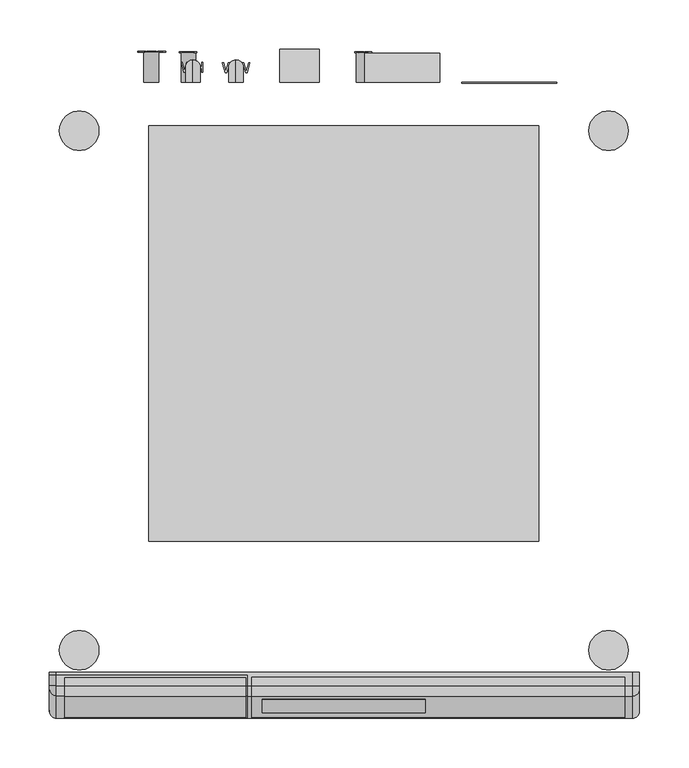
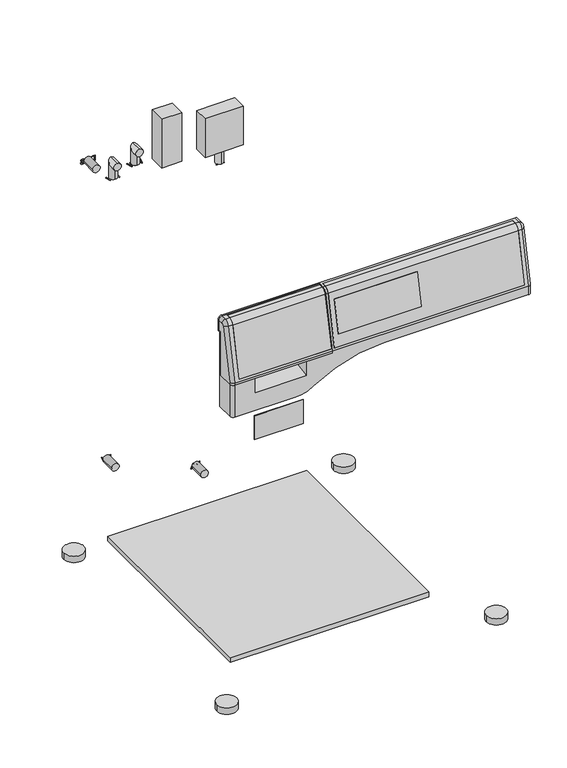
"""IFC4 building model written with IfcOpenShell, lengths in millimetres: proxy geometry, 11137260_RU_PWM507DV_SST : 51507451_RU_11137260_PWM507DV_SST."""

from ifc_helpers import new_model, si_unit, point, frame, frame_2d, origin, origin_with_axes, place, context, project, spatial, polyline, circle_curve, ellipse_curve, trimmed, segment, composite_curve, outline, extrude, source, transform, mapped, element, save
from ifc_brep_helpers import plane_surface, cylinder_surface, revolved_surface, advanced_brep


def specialty_equipment_3f033d97(model_context):
    return source(origin(), model_context, "Body", "SolidModel", [
        advanced_brep(
        [(-297.5, -634.5, 819.0), (-297.5, -640.0, 819.0), (-297.5, -640.0, 727.0), (-297.5, -671.0, 727.0), (-297.5, -671.0, 730.2642704), (-297.5, -648.6353607, 835.4816256), (-297.5, -644.8274781, 838.6486082), (-297.5, -634.5, 838.9190427), (-97.5, -655.4823939, 836.9370075), (-97.5, -678.0, 731.0), (-97.5, -678.0, 727.0), (-97.5, -640.0, 727.0), (-97.5, -640.0, 819.0), (-97.5, -634.5, 819.0), (-97.5, -634.5, 845.9214422), (-97.5, -645.0107168, 845.6462094), (-98.5, -655.4823939, 836.9370075), (-98.5, -677.1497738, 735.0), (-282.5, -677.1497738, 735.0), (-282.5, -655.4823939, 836.9370075), (-290.5, -655.4823939, 836.9370075), (-290.5, -678.0, 731.0), (-290.5, -678.0, 727.0), (-290.5, -634.5, 845.9214422), (-290.5, -645.0107168, 845.6462094), (-282.5, -645.0107168, 845.6462094), (-282.5, -636.5, 845.8690704), (-98.5, -636.5, 845.8690704), (-98.5, -645.0107168, 845.6462094), (-98.5, -654.5042463, 836.7290958), (-98.5, -676.1274332, 735.0), (-98.5, -636.5, 844.8687276), (-98.5, -644.9845398, 844.6465521), (-282.5, -654.5042463, 836.7290958), (-282.5, -644.9845398, 844.6465521), (-282.5, -636.5, 844.8687276), (-282.5, -676.1274332, 735.0)],
        [
            (0, 1),
            (1, 2),
            (2, 3),
            (3, 4),
            (4, 5),
            (5, 6, circle_curve(frame((-297.5, -644.7227703, 834.6499789), z_axis=(-1.0, 0.0, 0.0), x_axis=(0.0, -0.978147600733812, 0.20791169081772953)), 4.0)),
            (6, 7),
            (7, 0),
            (8, 9),
            (9, 10),
            (10, 11),
            (11, 12),
            (12, 13),
            (13, 14),
            (14, 15),
            (15, 8, circle_curve(frame((-97.5, -644.7227703, 834.6499789), z_axis=(1.0, 0.0, 0.0), x_axis=(0.0, 1.0, 0.0)), 11.0)),
            (8, 16),
            (16, 17),
            (17, 18),
            (18, 19),
            (19, 20),
            (20, 21),
            (21, 9),
            (21, 22),
            (22, 10),
            (22, 3, circle_curve(frame((-290.5, -671.0, 727.0), z_axis=(0.0, 0.0, -1.0), x_axis=(0.0, 1.0, 0.0)), 7.0)),
            (2, 11),
            (1, 12),
            (0, 13),
            (7, 23, ellipse_curve(frame((-290.5, -634.5, 838.9190427), z_axis=(0.0, 1.0, 0.0), x_axis=(0.0, 0.0, 1.0)), 7.0023995, 7.0)),
            (23, 14),
            (23, 24),
            (24, 25),
            (25, 26),
            (26, 27),
            (27, 28),
            (28, 15),
            (28, 16, circle_curve(frame((-98.5, -644.7227703, 834.6499789), z_axis=(1.0, 0.0, 0.0), x_axis=(0.0, 1.0, 0.0)), 11.0)),
            (19, 25, circle_curve(frame((-282.5, -644.7227703, 834.6499789), z_axis=(-1.0, 0.0, 0.0), x_axis=(0.0, 1.0, 0.0)), 11.0)),
            (24, 20, circle_curve(frame((-290.5, -644.7227703, 834.6499789), z_axis=(1.0, 0.0, 0.0), x_axis=(0.0, 1.0, 0.0)), 11.0)),
            (29, 30),
            (30, 17),
            (27, 31),
            (31, 32),
            (32, 29, circle_curve(frame((-98.5, -644.7227703, 834.6499789), z_axis=(1.0, 0.0, 0.0), x_axis=(0.0, 1.0, 0.0)), 10.0)),
            (33, 34, circle_curve(frame((-282.5, -644.7227703, 834.6499789), z_axis=(-1.0, 0.0, 0.0), x_axis=(0.0, 1.0, 0.0)), 10.0)),
            (34, 35),
            (35, 26),
            (18, 36),
            (36, 33),
            (29, 33),
            (36, 30),
            (32, 34),
            (31, 35),
            (21, 4, ellipse_curve(frame((-290.5, -671.0, 730.2642704), z_axis=(0.0, -0.10452846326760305, -0.9945218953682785), x_axis=(0.0, -0.9945218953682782, 0.1045284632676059)), 7.038558, 7.0)),
            (20, 5, circle_curve(frame((-290.5, -648.6353607, 835.4816256), z_axis=(0.0, -0.2079116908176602, -0.9781476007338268), x_axis=(0.0, 0.9781476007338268, -0.2079116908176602)), 7.0)),
            (24, 6, circle_curve(frame((-290.5, -644.8274781, 838.6486082), z_axis=(0.0, -0.9996573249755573, -0.026176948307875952), x_axis=(0.0, 0.026176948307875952, -0.9996573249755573)), 7.0)),
        ],
        [
            plane_surface(frame((-297.5, -655.4823939, 836.9370075), z_axis=(-1.0, 0.0, 0.0), x_axis=(0.0, 0.20791169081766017, 0.9781476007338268))),
            plane_surface(frame((-97.5, -655.4823939, 836.9370075), z_axis=(1.0, 0.0, 0.0), x_axis=(0.0, -0.20791169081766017, -0.9781476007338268))),
            plane_surface(frame((-97.5, -655.4823939, 836.9370075), z_axis=(0.0, -0.9781476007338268, 0.20791169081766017), x_axis=(-1.0, 0.0, 0.0))),
            plane_surface(frame((-97.5, -678.0, 731.0), z_axis=(0.0, -1.0, 0.0), x_axis=(-1.0, 0.0, 0.0))),
            plane_surface(frame((-97.5, -678.0, 727.0), z_axis=(0.0, 0.0, -1.0), x_axis=(-1.0, 0.0, 0.0))),
            plane_surface(frame((-97.5, -640.0, 727.0), z_axis=(0.0, 1.0, 0.0), x_axis=(-1.0, 0.0, 0.0))),
            plane_surface(frame((-97.5, -640.0, 819.0), z_axis=(0.0, 0.0, -1.0), x_axis=(-1.0, 0.0, 0.0))),
            plane_surface(frame((-97.5, -634.5, 819.0), z_axis=(0.0, 1.0, 0.0), x_axis=(-1.0, 0.0, 0.0))),
            plane_surface(frame((-97.5, -634.5, 845.9214422), z_axis=(0.0, -0.02617694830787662, 0.9996573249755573), x_axis=(-1.0, 0.0, 0.0))),
            cylinder_surface(frame((-297.5, -644.7227703, 834.6499789), z_axis=(1.0, 0.0, 0.0), x_axis=(0.0, 1.0, 0.0)), 11.0),
            plane_surface(frame((-98.5, -634.7227703, 834.6499789), z_axis=(-1.0, 0.0, 0.0), x_axis=(0.0, 0.0, -1.0))),
            plane_surface(frame((-282.5, -634.7227703, 834.6499789), z_axis=(1.0, 0.0, 0.0), x_axis=(0.0, 0.0, 1.0))),
            plane_surface(frame((-98.5, -676.1274332, 735.0), z_axis=(0.0, -0.9781476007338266, 0.2079116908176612), x_axis=(-1.0, 0.0, 0.0))),
            cylinder_surface(frame((-282.5, -644.7227703, 834.6499789), z_axis=(-1.0, 0.0, 0.0), x_axis=(0.0, 1.0, 0.0)), 10.0),
            plane_surface(frame((-98.5, -644.9845398, 844.6465521), z_axis=(0.0, -0.026176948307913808, 0.9996573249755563), x_axis=(-1.0, 0.0, 0.0))),
            plane_surface(frame((-98.5, -636.5, 844.8687276), z_axis=(0.0, -1.0, 0.0), x_axis=(-1.0, 0.0, 0.0))),
            plane_surface(frame((-98.5, -677.1497738, 735.0), z_axis=(0.0, 0.0, 1.0), x_axis=(-1.0, 0.0, 0.0))),
            cylinder_surface(frame((-290.5, -671.0, 727.0), z_axis=(0.0, 0.0, 1.0), x_axis=(0.0, 1.0, 0.0)), 7.0),
            cylinder_surface(frame((-290.5, -671.1529668, 729.5446182), z_axis=(0.0, 0.2079116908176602, 0.9781476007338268), x_axis=(0.0, 0.9781476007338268, -0.2079116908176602)), 7.0),
            revolved_surface(trimmed(ellipse_curve(frame((-290.5, -648.6353607, 835.4816256), z_axis=(0.0, -0.20791169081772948, -0.978147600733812), x_axis=(0.0, 0.978147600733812, -0.20791169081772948)), 7.0, 7.0), [point((-290.5, -655.4823939, 836.9370075))], [point((-297.5, -648.6353607, 835.4816256))], True, "CARTESIAN"), (-297.5, -644.7227703, 834.6499789), (-1.0, 0.0, 0.0)),
            cylinder_surface(frame((-290.5, -644.8274781, 838.6486082), z_axis=(0.0, 0.9996573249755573, 0.026176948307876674), x_axis=(0.0, 0.026176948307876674, -0.9996573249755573)), 7.0),
        ],
        [
            (0, [[1, 2, 3, 4, 5, 6, 7, 8]]),
            (1, [[9, 10, 11, 12, 13, 14, 15, 16]]),
            (2, [[-9, 17, 18, 19, 20, 21, 22, 23]]),
            (3, [[-10, -23, 24, 25]]),
            (4, [[-11, -25, 26, -3, 27]]),
            (5, [[-2, 28, -12, -27]]),
            (6, [[-1, 29, -13, -28]]),
            (7, [[-14, -29, -8, 30, 31]]),
            (8, [[-15, -31, 32, 33, 34, 35, 36, 37]]),
            (9, [[-16, -37, 38, -17]]),
            (9, [[39, -33, 40, -21]]),
            (10, [[41, 42, -18, -38, -36, 43, 44, 45]]),
            (11, [[46, 47, 48, -34, -39, -20, 49, 50]]),
            (12, [[-41, 51, -50, 52]]),
            (13, [[-45, 53, -46, -51]]),
            (14, [[-44, 54, -47, -53]]),
            (15, [[-43, -35, -48, -54]]),
            (16, [[-42, -52, -49, -19]]),
            (17, [[55, -4, -26, -24]]),
            (18, [[-55, -22, 56, -5]]),
            (19, [[-56, -40, 57, -6]]),
            (20, [[-57, -32, -30, -7]]),
        ],
    ),
        extrude(outline(polyline([(-671.2386322, 758.0), (-672.2609728, 758.0), (-658.4447963, 823.0), (-657.4224557, 823.0), (-671.2386322, 758.0)])), frame((-82.5, 0.0, 0.0), z_axis=(1.0, 0.0, 0.0), x_axis=(0.0, 1.0, 0.0)), (0.0, 0.0, 1.0), 165.0),
        advanced_brep(
        [(284.0, -654.5042463, 836.7290958), (284.0, -644.9845398, 844.6465521), (284.0, -636.5, 844.8687276), (284.0, -636.5, 845.8690704), (284.0, -645.0107168, 845.6462094), (284.0, -655.4823939, 836.9370075), (284.0, -677.1497738, 735.0), (284.0, -676.1274332, 735.0), (-93.0, -654.5042463, 836.7290958), (-93.0, -676.1274332, 735.0), (-93.0, -677.1497738, 735.0), (-93.0, -655.4823939, 836.9370075), (-93.0, -645.0107168, 845.6462094), (-93.0, -636.5, 845.8690704), (-93.0, -636.5, 844.8687276), (-93.0, -644.9845398, 844.6465521), (82.5, -658.4447963, 823.0), (82.5, -672.2609728, 758.0), (-82.5, -672.2609728, 758.0), (-82.5, -658.4447963, 823.0), (82.5, -671.2386322, 758.0), (82.5, -657.4224557, 823.0), (-82.5, -657.4224557, 823.0), (-82.5, -671.2386322, 758.0)],
        [
            (0, 1, circle_curve(frame((284.0, -644.7227703, 834.6499789), z_axis=(-1.0, 0.0, 0.0), x_axis=(0.0, 1.0, 0.0)), 10.0)),
            (1, 2),
            (2, 3),
            (3, 4),
            (4, 5, circle_curve(frame((284.0, -644.7227703, 834.6499789), z_axis=(1.0, 0.0, 0.0), x_axis=(0.0, 1.0, 0.0)), 11.0)),
            (5, 6),
            (6, 7),
            (7, 0),
            (8, 9),
            (9, 10),
            (10, 11),
            (11, 12, circle_curve(frame((-93.0, -644.7227703, 834.6499789), z_axis=(-1.0, 0.0, 0.0), x_axis=(0.0, 1.0, 0.0)), 11.0)),
            (12, 13),
            (13, 14),
            (14, 15),
            (15, 8, circle_curve(frame((-93.0, -644.7227703, 834.6499789), z_axis=(1.0, 0.0, 0.0), x_axis=(0.0, 1.0, 0.0)), 10.0)),
            (0, 8),
            (15, 1),
            (14, 2),
            (13, 3),
            (12, 4),
            (11, 5),
            (10, 6),
            (16, 17),
            (17, 18),
            (18, 19),
            (19, 16),
            (9, 7),
            (20, 21),
            (21, 22),
            (22, 23),
            (23, 20),
            (20, 17),
            (16, 21),
            (22, 19),
            (18, 23),
        ],
        [
            plane_surface(frame((284.0, -634.7227703, 834.6499789), z_axis=(1.0, 0.0, 0.0), x_axis=(0.0, 0.0, -1.0))),
            plane_surface(frame((-93.0, -634.7227703, 834.6499789), z_axis=(-1.0, 0.0, 0.0), x_axis=(0.0, 0.0, 1.0))),
            revolved_surface(polyline([(-93.0, -634.7227703, 834.6499789), (284.0, -634.7227703, 834.6499789)]), (-93.0, -644.7227703, 834.6499789), (-1.0, 0.0, 0.0)),
            plane_surface(frame((284.0, -644.9845398, 844.6465521), z_axis=(0.0, 0.02617694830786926, -0.9996573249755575), x_axis=(-1.0, 0.0, 0.0))),
            plane_surface(frame((284.0, -636.5, 844.8687276), z_axis=(0.0, 1.0, 0.0), x_axis=(-1.0, 0.0, 0.0))),
            plane_surface(frame((284.0, -636.5, 845.8690704), z_axis=(0.0, -0.026176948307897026, 0.9996573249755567), x_axis=(-1.0, 0.0, 0.0))),
            cylinder_surface(frame((-93.0, -644.7227703, 834.6499789), z_axis=(1.0, 0.0, 0.0), x_axis=(0.0, 1.0, 0.0)), 11.0),
            plane_surface(frame((284.0, -655.4823939, 836.9370075), z_axis=(0.0, -0.9781476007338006, 0.20791169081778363), x_axis=(-1.0, 0.0, 0.0))),
            plane_surface(frame((284.0, -677.1497738, 735.0), z_axis=(0.0, 0.0, -1.0), x_axis=(-1.0, 0.0, 0.0))),
            plane_surface(frame((284.0, -676.1274332, 735.0), z_axis=(0.0, 0.9781476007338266, -0.2079116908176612), x_axis=(-1.0, 0.0, 0.0))),
            plane_surface(frame((82.5, -658.4447963, 823.0), z_axis=(-1.0, 0.0, 0.0), x_axis=(0.0, -1.0, 0.0))),
            plane_surface(frame((-82.5, -658.4447963, 823.0), z_axis=(1.0, 0.0, 0.0), x_axis=(0.0, 1.0, 0.0))),
            plane_surface(frame((82.5, -657.4224557, 823.0), z_axis=(0.0, 0.0, -1.0), x_axis=(-1.0, 0.0, 0.0))),
            plane_surface(frame((82.5, -672.2609728, 758.0), z_axis=(0.0, 0.0, 1.0), x_axis=(-1.0, 0.0, 0.0))),
        ],
        [
            (0, [[1, 2, 3, 4, 5, 6, 7, 8]]),
            (1, [[9, 10, 11, 12, 13, 14, 15, 16]]),
            (2, [[-1, 17, -16, 18]]),
            (3, [[-2, -18, -15, 19]]),
            (4, [[-3, -19, -14, 20]]),
            (5, [[-4, -20, -13, 21]]),
            (6, [[-5, -21, -12, 22]]),
            (7, [[-6, -22, -11, 23], [24, 25, 26, 27]]),
            (8, [[-7, -23, -10, 28]]),
            (9, [[-8, -28, -9, -17], [29, 30, 31, 32]]),
            (10, [[33, -24, 34, -29]]),
            (11, [[35, -26, 36, -31]]),
            (12, [[-34, -27, -35, -30]]),
            (13, [[-33, -32, -36, -25]]),
        ],
    ),
        advanced_brep(
        [(298.5, -637.0, 816.0), (298.5, -631.5, 816.0), (298.5, -631.5, 838.9976005), (298.5, -644.8274781, 838.6486082), (298.5, -648.6353607, 835.4816256), (298.5, -671.0, 730.2642704), (298.5, -671.0, 713.0), (298.5, -637.0, 713.0), (-297.5, -637.0, 816.0), (-297.5, -637.0, 660.0), (-297.5, -671.0, 660.0), (-297.5, -671.0, 727.0), (-297.5, -640.0, 727.0), (-297.5, -640.0, 819.0), (-297.5, -634.5, 819.0), (-297.5, -634.5, 838.9190427), (-297.5, -631.5, 838.9976005), (-297.5, -631.5, 816.0), (-290.5, -631.5, 846.0), (291.5, -631.5, 846.0), (284.0, -636.5, 845.8690704), (284.0, -645.0107168, 845.6462094), (291.5, -645.0107168, 845.6462094), (-290.5, -634.5, 845.9214422), (-97.5, -634.5, 845.9214422), (-97.5, -645.0107168, 845.6462094), (-93.0, -645.0107168, 845.6462094), (-93.0, -636.5, 845.8690704), (284.0, -655.4823939, 836.9370075), (291.5000072, -655.4823939, 836.9370075), (-93.0, -655.4823939, 836.9370075), (-97.5, -655.4823939, 836.9370075), (284.0, -677.1497738, 735.0), (-93.0, -677.1497738, 735.0), (-97.5, -678.0, 731.0), (291.5, -678.0, 731.0), (-97.5, -678.0, 727.0), (-148.5, -678.0, 727.0), (-148.5, -678.0, 697.0), (-251.5, -678.0, 697.0), (-251.5, -678.0, 727.0), (-290.5, -678.0, 727.0), (-290.5, -678.0, 660.0), (-170.6302935, -678.0, 660.0), (-135.780818, -678.0, 670.5165354), (5.0, -678.0, 713.0), (291.5, -678.0, 713.0), (-170.6302935, -637.0, 660.0), (5.0, -637.0, 713.0), (-135.780818, -637.0, 670.5165354), (284.0, -636.5, 844.8687276), (284.0, -644.9845398, 844.6465521), (284.0, -654.5042463, 836.7290958), (284.0, -676.1274332, 735.0), (-93.0, -676.1274332, 735.0), (-93.0, -654.5042463, 836.7290958), (-93.0, -644.9845398, 844.6465521), (-93.0, -636.5, 844.8687276), (-97.5, -634.5, 819.0), (-97.5, -640.0, 819.0), (-97.5, -640.0, 727.0), (-148.5, -640.0, 727.0), (-251.5, -640.0, 727.0), (-251.5, -640.0, 703.7004253), (-148.5, -640.0, 703.7004253)],
        [
            (0, 1),
            (1, 2),
            (2, 3),
            (3, 4, circle_curve(frame((298.5, -644.7227703, 834.6499789), z_axis=(1.0, 0.0, 0.0), x_axis=(0.0, -0.02617694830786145, 0.9996573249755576)), 4.0)),
            (4, 5),
            (5, 6),
            (6, 7),
            (7, 0),
            (8, 9),
            (9, 10),
            (10, 11),
            (11, 12),
            (12, 13),
            (13, 14),
            (14, 15),
            (15, 16),
            (16, 17),
            (17, 8),
            (0, 8),
            (17, 1),
            (16, 18, ellipse_curve(frame((-290.5, -631.5, 838.9976005), z_axis=(0.0, 1.0, 0.0), x_axis=(0.0, 0.0, 0.9999999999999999)), 7.0023995, 7.0)),
            (18, 19),
            (19, 2, ellipse_curve(frame((291.5, -631.5, 838.9976005), z_axis=(0.0, 1.0, 0.0), x_axis=(0.0, 0.0, -1.0)), 7.0023995, 7.0)),
            (20, 21),
            (21, 22),
            (22, 19),
            (18, 23),
            (23, 24),
            (24, 25),
            (25, 26),
            (26, 27),
            (27, 20),
            (21, 28, circle_curve(frame((284.0, -644.7227703, 834.6499789), z_axis=(1.0, 0.0, 0.0), x_axis=(0.0, 1.0, 0.0)), 11.0)),
            (28, 29),
            (29, 22, circle_curve(frame((291.5, -644.7227703, 834.6499789), z_axis=(-1.0, 0.0, 0.0), x_axis=(0.0, 1.0, 0.0)), 11.0)),
            (30, 26, circle_curve(frame((-93.0, -644.7227703, 834.6499789), z_axis=(-1.0, 0.0, 0.0), x_axis=(0.0, 1.0, 0.0)), 11.0)),
            (25, 31, circle_curve(frame((-97.5, -644.7227703, 834.6499789), z_axis=(1.0, 0.0, 0.0), x_axis=(0.0, 1.0, 0.0)), 11.0)),
            (31, 30),
            (28, 32),
            (32, 33),
            (33, 30),
            (31, 34),
            (34, 35),
            (35, 29),
            (34, 36),
            (36, 37),
            (37, 38),
            (38, 39),
            (39, 40),
            (40, 41),
            (41, 42),
            (42, 43),
            (43, 44, circle_curve(frame((-170.6302935, -678.0, 723.0), z_axis=(0.0, -1.0, 0.0), x_axis=(1.0, 0.0, 0.0)), 63.0)),
            (44, 45, circle_curve(frame((5.0, -678.0, 458.5), z_axis=(0.0, 1.0, 0.0), x_axis=(1.0, 0.0, 0.0)), 254.5)),
            (45, 46),
            (46, 35),
            (9, 47),
            (47, 43),
            (42, 10, circle_curve(frame((-290.5, -671.0, 660.0), z_axis=(0.0, 0.0, -1.0), x_axis=(0.0, 1.0, 0.0)), 7.0)),
            (7, 48),
            (48, 49, circle_curve(frame((5.0, -637.0, 458.5), z_axis=(0.0, -1.0, 0.0), x_axis=(1.0, 0.0, 0.0)), 254.5)),
            (49, 47, circle_curve(frame((-170.6302935, -637.0, 723.0), z_axis=(0.0, 1.0, 0.0), x_axis=(1.0, 0.0, 0.0)), 63.0)),
            (20, 50),
            (50, 51),
            (51, 52, circle_curve(frame((284.0, -644.7227703, 834.6499789), z_axis=(1.0, 0.0, 0.0), x_axis=(0.0, 1.0, 0.0)), 10.0)),
            (52, 53),
            (53, 32),
            (33, 54),
            (54, 55),
            (55, 56, circle_curve(frame((-93.0, -644.7227703, 834.6499789), z_axis=(-1.0, 0.0, 0.0), x_axis=(0.0, 1.0, 0.0)), 10.0)),
            (56, 57),
            (57, 27),
            (53, 54),
            (52, 55),
            (51, 56),
            (50, 57),
            (24, 58),
            (58, 59),
            (59, 60),
            (60, 36),
            (60, 61),
            (61, 37),
            (62, 12),
            (11, 41, circle_curve(frame((-290.5, -671.0, 727.0), z_axis=(0.0, 0.0, 1.0), x_axis=(0.0, 1.0, 0.0)), 7.0)),
            (40, 62),
            (59, 13),
            (62, 63),
            (63, 64),
            (64, 61),
            (58, 14),
            (23, 15, ellipse_curve(frame((-290.5, -634.5, 838.9190427), z_axis=(0.0, -1.0, 0.0), x_axis=(0.0, 0.0, 0.9999999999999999)), 7.0023995, 7.0)),
            (64, 38),
            (39, 63),
            (22, 3, circle_curve(frame((291.5, -644.8274781, 838.6486082), z_axis=(0.0, 0.9996573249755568, 0.02617694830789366), x_axis=(1.0, 0.0, 0.0)), 7.0)),
            (29, 4, circle_curve(frame((291.5, -648.6353607, 835.4816256), z_axis=(0.0, 0.20791169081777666, 0.9781476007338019), x_axis=(1.0, 0.0, 0.0)), 7.0)),
            (35, 5, ellipse_curve(frame((291.5, -671.0, 730.2642704), z_axis=(0.0, 0.10452846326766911, 0.9945218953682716), x_axis=(0.0, -0.9945218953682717, 0.10452846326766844)), 7.038558, 7.0)),
            (46, 6, circle_curve(frame((291.5, -671.0, 713.0), z_axis=(0.0, 0.0, 1.0), x_axis=(1.0, 0.0, 0.0)), 7.0)),
            (45, 48),
            (44, 49),
        ],
        [
            plane_surface(frame((298.5, -631.5, 816.0), z_axis=(1.0, 0.0, 0.0), x_axis=(0.0, 1.0, 0.0))),
            plane_surface(frame((-297.5, -631.5, 816.0), z_axis=(-1.0, 0.0, 0.0), x_axis=(0.0, -1.0, 0.0))),
            plane_surface(frame((298.5, -637.0, 816.0), z_axis=(0.0, 0.0, -1.0), x_axis=(-1.0, 0.0, 0.0))),
            plane_surface(frame((298.5, -631.5, 816.0), z_axis=(0.0, 1.0, 0.0), x_axis=(-1.0, 0.0, 0.0))),
            plane_surface(frame((298.5, -631.5, 846.0), z_axis=(0.0, -0.026176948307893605, 0.9996573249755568), x_axis=(-1.0, 0.0, 0.0))),
            cylinder_surface(frame((-297.5, -644.7227703, 834.6499789), z_axis=(1.0, 0.0, 0.0), x_axis=(0.0, 1.0, 0.0)), 11.0),
            plane_surface(frame((298.5, -655.4823939, 836.9370075), z_axis=(0.0, -0.9781476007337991, 0.20791169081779), x_axis=(-1.0, 0.0, 0.0))),
            plane_surface(frame((298.5, -678.0, 731.0), z_axis=(0.0, -1.0, 0.0), x_axis=(-1.0, 0.0, 0.0))),
            plane_surface(frame((298.5, -678.0, 660.0), z_axis=(0.0, 0.0, -1.0), x_axis=(-1.0, 0.0, 0.0))),
            plane_surface(frame((298.5, -637.0, 660.0), z_axis=(0.0, 1.0, 0.0), x_axis=(-1.0, 0.0, 0.0))),
            plane_surface(frame((284.0, -677.1497738, 735.0), z_axis=(-1.0, 0.0, 0.0), x_axis=(0.0, 1.0, 0.0))),
            plane_surface(frame((-93.0, -677.1497738, 735.0), z_axis=(1.0, 0.0, 0.0), x_axis=(0.0, -1.0, 0.0))),
            plane_surface(frame((284.0, -677.1497738, 735.0), z_axis=(0.0, 0.0, 1.0), x_axis=(-1.0, 0.0, 0.0))),
            plane_surface(frame((284.0, -676.1274332, 735.0), z_axis=(0.0, -0.9781476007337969, 0.20791169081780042), x_axis=(-1.0, 0.0, 0.0))),
            cylinder_surface(frame((-93.0, -644.7227703, 834.6499789), z_axis=(-1.0, 0.0, 0.0), x_axis=(0.0, 1.0, 0.0)), 10.0),
            plane_surface(frame((284.0, -644.9845398, 844.6465521), z_axis=(0.0, -0.026176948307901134, 0.9996573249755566), x_axis=(-1.0, 0.0, 0.0))),
            plane_surface(frame((284.0, -636.5, 844.8687276), z_axis=(0.0, -1.0, 0.0), x_axis=(-1.0, 0.0, 0.0))),
            plane_surface(frame((-97.5, -678.0, 727.0), z_axis=(-1.0, 0.0, 0.0), x_axis=(0.0, 1.0, 0.0))),
            plane_surface(frame((-97.5, -678.0, 727.0), z_axis=(0.0, 0.0, 1.0), x_axis=(-1.0, 0.0, 0.0))),
            plane_surface(frame((-97.5, -640.0, 727.0), z_axis=(0.0, -1.0, 0.0), x_axis=(-1.0, 0.0, 0.0))),
            plane_surface(frame((-97.5, -640.0, 819.0), z_axis=(0.0, 0.0, 1.0), x_axis=(-1.0, 0.0, 0.0))),
            plane_surface(frame((-97.5, -634.5, 819.0), z_axis=(0.0, -1.0, 0.0), x_axis=(-1.0, 0.0, 0.0))),
            plane_surface(frame((-148.5, -678.0, 697.0), z_axis=(-1.0000000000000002, 0.0, 0.0), x_axis=(0.0, 0.9848077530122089, 0.17364817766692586))),
            plane_surface(frame((-251.5, -678.0, 697.0), z_axis=(1.0000000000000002, 0.0, 0.0), x_axis=(0.0, -0.9848077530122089, -0.17364817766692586))),
            plane_surface(frame((-148.5, -678.0, 697.0), z_axis=(0.0, -0.17364817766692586, 0.9848077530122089), x_axis=(-1.0, 0.0, 0.0))),
            cylinder_surface(frame((-290.5, -671.0, 660.0), z_axis=(0.0, 0.0, 1.0), x_axis=(0.0, 1.0, 0.0)), 7.0),
            cylinder_surface(frame((-290.5, -644.8274781, 838.6486082), z_axis=(0.0, 0.9996573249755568, 0.02617694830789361), x_axis=(0.0, 0.02617694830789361, -0.9996573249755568)), 7.0),
            cylinder_surface(frame((291.5, -631.3167614, 839.0023987), z_axis=(0.0, -0.9996573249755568, -0.02617694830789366), x_axis=(1.0, 0.0, 0.0)), 7.0),
            revolved_surface(trimmed(ellipse_curve(frame((291.5, -644.8274781, 838.6486082), z_axis=(0.0, 0.9996573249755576, 0.026176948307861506), x_axis=(1.0, 0.0, 0.0)), 7.0, 7.0), [point((291.5, -645.0107168, 845.6462094))], [point((298.5, -644.8274781, 838.6486082))], True, "CARTESIAN"), (298.5, -644.7227703, 834.6499789), (1.0, 0.0, 0.0)),
            cylinder_surface(frame((291.5, -648.6353607, 835.4816256), z_axis=(0.0, -0.20791169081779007, -0.9781476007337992), x_axis=(1.0, 0.0, 0.0)), 7.0),
            cylinder_surface(frame((291.5, -671.0, 731.0), z_axis=(0.0, 0.0, -1.0), x_axis=(1.0, 0.0, 0.0)), 7.0),
            plane_surface(frame((298.5, -678.0, 713.0), z_axis=(0.0, 0.0, -1.0), x_axis=(0.0, 1.0, 0.0))),
            revolved_surface(polyline([(259.5, -678.0, 458.5), (259.5, -637.0, 458.5)]), (5.0, -637.0, 458.5), (0.0, -1.0, 0.0)),
            cylinder_surface(frame((-170.6302935, -637.0, 723.0), z_axis=(0.0, 1.0, 0.0), x_axis=(1.0, 0.0, 0.0)), 63.0),
        ],
        [
            (0, [[1, 2, 3, 4, 5, 6, 7, 8]]),
            (1, [[9, 10, 11, 12, 13, 14, 15, 16, 17, 18]]),
            (2, [[-1, 19, -18, 20]]),
            (3, [[-20, -17, 21, 22, 23, -2]]),
            (4, [[24, 25, 26, -22, 27, 28, 29, 30, 31, 32]]),
            (5, [[33, 34, 35, -25]]),
            (5, [[36, -30, 37, 38]]),
            (6, [[39, 40, 41, -38, 42, 43, 44, -34]]),
            (7, [[45, 46, 47, 48, 49, 50, 51, 52, 53, 54, 55, 56, -43]]),
            (8, [[-10, 57, 58, -52, 59]]),
            (9, [[-9, -19, -8, 60, 61, 62, -57]]),
            (10, [[63, 64, 65, 66, 67, -39, -33, -24]]),
            (11, [[68, 69, 70, 71, 72, -31, -36, -41]]),
            (12, [[-67, 73, -68, -40]]),
            (13, [[-66, 74, -69, -73]]),
            (14, [[-65, 75, -70, -74]]),
            (15, [[-64, 76, -71, -75]]),
            (16, [[-63, -32, -72, -76]]),
            (17, [[77, 78, 79, 80, -45, -42, -37, -29]]),
            (18, [[-80, 81, 82, -46]]),
            (18, [[83, -12, 84, -50, 85]]),
            (19, [[-79, 86, -13, -83, 87, 88, 89, -81]]),
            (20, [[-78, 90, -14, -86]]),
            (21, [[-77, -28, 91, -15, -90]]),
            (22, [[-89, 92, -47, -82]]),
            (23, [[93, -87, -85, -49]]),
            (24, [[-92, -88, -93, -48]]),
            (25, [[-11, -59, -51, -84]]),
            (26, [[-16, -91, -27, -21]]),
            (27, [[94, -3, -23, -26]]),
            (28, [[-94, -35, 95, -4]]),
            (29, [[-95, -44, 96, -5]]),
            (30, [[-96, -56, 97, -6]]),
            (31, [[98, -60, -7, -97, -55]]),
            (32, [[-98, -54, 99, -61]]),
            (33, [[-99, -53, -58, -62]]),
        ],
    ),
        extrude(outline(composite_curve([segment(polyline([(-676.1274332, 735.0), (-677.1497738, 735.0), (-655.4823939, 836.9370075)]), True, "CONTINUOUS"), segment(trimmed(circle_curve(frame_2d((-644.7227703, 834.6499789)), 11.0), [point((-655.4823939, 836.9370075))], [point((-645.0107168, 845.6462094))], False, "CARTESIAN"), True, "CONTINUOUS"), segment(polyline([(-645.0107168, 845.6462094), (-636.5, 845.8690704), (-636.5, 844.8687276), (-644.9845398, 844.6465521)]), True, "CONTINUOUS"), segment(trimmed(circle_curve(frame_2d((-644.7227703, 834.6499789)), 10.0), [point((-644.9845398, 844.6465521))], [point((-654.5042463, 836.7290958))], True, "CARTESIAN"), True, "CONTINUOUS"), segment(polyline([(-654.5042463, 836.7290958), (-676.1274332, 735.0)]), True, "CONTINUOUS")], self_intersect=False)), frame((-282.5, 0.0, 0.0), z_axis=(1.0, 0.0, 0.0), x_axis=(0.0, 1.0, 0.0)), (0.0, 0.0, 1.0), 184.0),
        extrude(outline(composite_curve([segment(trimmed(circle_curve(frame_2d((757.5, -194.5)), 7.5), [point((757.5, -187.0))], [point((757.5, -202.0))], False, "CARTESIAN"), True, "CONTINUOUS"), segment(trimmed(circle_curve(frame_2d((757.5, -194.5)), 7.5), [point((757.5, -202.0))], [point((757.5, -187.0))], False, "CARTESIAN"), True, "CONTINUOUS")], self_intersect=False)), frame((0.0, -35.0, 0.0), z_axis=(0.0, 1.0, 0.0), x_axis=(0.0, 0.0, 1.0)), (0.0, 0.0, 1.0), 30.0),
        extrude(outline(polyline([(752.5, -179.9815352), (762.545631, -179.9815352), (762.545631, -183.4469836), (762.4009308, -185.2397952), (761.6823346, -186.7162282), (759.965552, -187.9057134), (757.5767715, -188.3005734), (755.5497417, -188.0332458), (754.0867977, -187.3465327), (753.1756766, -186.4292803), (752.6716783, -185.2287587), (752.5, -183.6137568), (752.5, -179.9815352)]), holes=[polyline([(753.7557039, -181.2372391), (753.7557039, -183.4592463), (753.9371923, -185.0754745), (754.4497746, -186.0074423), (755.6968945, -186.7714105), (757.5963919, -187.0448695), (759.9753621, -186.5089881), (761.0888183, -185.2054595), (761.2899271, -183.4249107), (761.2899271, -181.2372391), (753.7557039, -181.2372391)])]), frame((0.0, -5.0, 0.0), z_axis=(0.0, 1.0, 0.0), x_axis=(0.0, 0.0, 1.0)), (0.0, 0.0, 1.0), 1.0),
        extrude(outline(polyline([(757.390378, -189.5562772), (761.2923797, -190.8953677), (762.702594, -194.3510059), (762.0404064, -196.8501509), (760.1936388, -198.5473132), (757.5056477, -199.1310193), (754.7808684, -198.5166564), (752.9610788, -196.7753483), (752.343037, -194.3436483), (753.0260713, -191.8175252), (754.8900067, -190.1301732), (757.390378, -189.5562772)]), holes=[polyline([(757.3781153, -190.8119811), (754.6091901, -191.816299), (753.5987409, -194.3362906), (754.6190003, -196.8783552), (757.5154579, -197.8753154), (759.5878598, -197.4485723), (760.9600596, -196.2014524), (761.4468901, -194.3583636), (760.508791, -191.8592185), (757.3781153, -190.8119811)])]), frame((0.0, -5.0, 0.0), z_axis=(0.0, 1.0, 0.0), x_axis=(0.0, 0.0, 1.0)), (0.0, 0.0, 1.0), 1.0),
        extrude(outline(polyline([(755.9531857, -200.3867232), (755.9531857, -201.6424271), (754.6962555, -202.0470973), (753.9016304, -203.0354736), (753.5987409, -204.5413372), (753.828054, -205.8534496), (754.4583585, -206.7008045), (755.3008083, -206.9791685), (756.0843969, -206.7707021), (756.654614, -205.9172158), (757.1340869, -204.0888423), (757.7533549, -202.1206737), (758.6877752, -201.0525896), (759.9361214, -200.7006492), (761.3573722, -201.1359762), (762.3604637, -202.4076216), (762.702594, -204.2691045), (762.3445222, -206.2556673), (761.2923797, -207.5800425), (759.7202973, -208.0779094), (759.7202973, -206.8222056), (761.0103368, -206.110967), (761.4468901, -204.3181554), (761.0152419, -202.5204388), (759.9729096, -201.956353), (759.1022555, -202.3561181), (758.4008272, -204.4064471), (757.7705227, -206.6284544), (756.7527159, -207.8436912), (755.3326914, -208.2348724), (753.8305065, -207.7848301), (752.7342182, -206.4898855), (752.343037, -204.5903881), (752.764875, -202.3475342), (754.0352942, -200.928736), (755.9531857, -200.3867232)])), frame((0.0, -5.0, 0.0), z_axis=(0.0, 1.0, 0.0), x_axis=(0.0, 0.0, 1.0)), (0.0, 0.0, 1.0), 1.0),
        advanced_brep(
        [(-152.5, -35.0, 739.0), (-152.5, -35.0, 754.0), (-152.5, -27.5, 739.0), (-152.5, -12.5, 754.0), (-152.5, -27.5, 716.5), (-152.5, -12.5, 716.5)],
        [
            (0, 1, circle_curve(frame((-152.5, -35.0, 746.5), z_axis=(0.0, -1.0, 0.0), x_axis=(0.0, 0.0, 1.0)), 7.5)),
            (1, 0, circle_curve(frame((-152.5, -35.0, 746.5), z_axis=(0.0, -1.0, 0.0), x_axis=(0.0, 0.0, 1.0)), 7.5)),
            (0, 2),
            (2, 3, ellipse_curve(frame((-152.5, -20.0, 746.5), z_axis=(0.0, -0.7071067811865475, 0.7071067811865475), x_axis=(0.0, -0.7071067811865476, -0.7071067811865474)), 10.6066017, 7.5)),
            (3, 1),
            (3, 2, ellipse_curve(frame((-152.5, -20.0, 746.5), z_axis=(0.0, -0.7071067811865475, 0.7071067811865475), x_axis=(0.0, -0.7071067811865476, -0.7071067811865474)), 10.6066017, 7.5)),
            (4, 5, circle_curve(frame((-152.5, -20.0, 716.5), z_axis=(0.0, 0.0, -1.0), x_axis=(0.0, 1.0, 0.0)), 7.5)),
            (5, 4, circle_curve(frame((-152.5, -20.0, 716.5), z_axis=(0.0, 0.0, -1.0), x_axis=(0.0, 1.0, 0.0)), 7.5)),
            (2, 4),
            (5, 3),
        ],
        [
            plane_surface(frame((-298.0, -35.0, 746.5), z_axis=(0.0, -1.0, 0.0), x_axis=(1.0, 0.0, 0.0))),
            cylinder_surface(frame((-152.5, -35.0, 746.5), z_axis=(0.0, -1.0, 0.0), x_axis=(0.0, 0.0, 1.0)), 7.5),
            plane_surface(frame((-298.0, -20.0, 716.5), z_axis=(0.0, 0.0, -1.0), x_axis=(1.0, 0.0, 0.0))),
            cylinder_surface(frame((-152.5, -20.0, 746.5), z_axis=(0.0, 0.0, 1.0), x_axis=(0.0, 1.0, 0.0)), 7.5),
        ],
        [
            (0, [[1, 2]]),
            (1, [[-1, 3, 4, 5]]),
            (1, [[-2, -5, 6, -3]]),
            (2, [[7, 8]]),
            (3, [[-4, 9, -8, 10]]),
            (3, [[-6, -10, -7, -9]]),
        ],
    ),
        advanced_brep(
        [(-109.0, -35.0, 753.5), (-109.0, -35.0, 768.5), (-109.0, -27.5, 753.5), (-109.0, -12.5, 768.5), (-109.0, -27.5, 731.0), (-109.0, -12.5, 731.0)],
        [
            (0, 1, circle_curve(frame((-109.0, -35.0, 761.0), z_axis=(0.0, -1.0, 0.0), x_axis=(0.0, 0.0, 1.0)), 7.5)),
            (1, 0, circle_curve(frame((-109.0, -35.0, 761.0), z_axis=(0.0, -1.0, 0.0), x_axis=(0.0, 0.0, 1.0)), 7.5)),
            (0, 2),
            (2, 3, ellipse_curve(frame((-109.0, -20.0, 761.0), z_axis=(0.0, -0.7071067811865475, 0.7071067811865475), x_axis=(0.0, -0.7071067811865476, -0.7071067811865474)), 10.6066017, 7.5)),
            (3, 1),
            (3, 2, ellipse_curve(frame((-109.0, -20.0, 761.0), z_axis=(0.0, -0.7071067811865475, 0.7071067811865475), x_axis=(0.0, -0.7071067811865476, -0.7071067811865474)), 10.6066017, 7.5)),
            (4, 5, circle_curve(frame((-109.0, -20.0, 731.0), z_axis=(0.0, 0.0, -1.0), x_axis=(0.0, 1.0, 0.0)), 7.5)),
            (5, 4, circle_curve(frame((-109.0, -20.0, 731.0), z_axis=(0.0, 0.0, -1.0), x_axis=(0.0, 1.0, 0.0)), 7.5)),
            (2, 4),
            (5, 3),
        ],
        [
            plane_surface(frame((-298.0, -35.0, 761.0), z_axis=(0.0, -1.0, 0.0), x_axis=(1.0, 0.0, 0.0))),
            cylinder_surface(frame((-109.0, -35.0, 761.0), z_axis=(0.0, -1.0, 0.0), x_axis=(0.0, 0.0, 1.0)), 7.5),
            plane_surface(frame((-298.0, -20.0, 731.0), z_axis=(0.0, 0.0, -1.0), x_axis=(1.0, 0.0, 0.0))),
            cylinder_surface(frame((-109.0, -20.0, 761.0), z_axis=(0.0, 0.0, 1.0), x_axis=(0.0, 1.0, 0.0)), 7.5),
        ],
        [
            (0, [[1, 2]]),
            (1, [[-1, 3, 4, 5]]),
            (1, [[-2, -5, 6, -3]]),
            (2, [[7, 8]]),
            (3, [[-4, 9, -8, 10]]),
            (3, [[-6, -10, -7, -9]]),
        ],
    ),
        extrude(outline(polyline([(-142.5237638, -25.0), (-143.7834134, -25.0), (-143.7834134, -21.5422104), (-145.4717236, -19.9295918), (-149.3062539, -24.9960047), (-150.8371057, -24.9960047), (-146.3635304, -19.0812626), (-150.682024, -14.9545468), (-148.9188384, -14.9545468), (-143.7734276, -19.8714576), (-143.7734276, -14.9547748), (-142.5237638, -14.9547748), (-142.5237638, -25.0)])), frame((0.0, 0.0, 715.5), z_axis=(0.0, 0.0, 1.0), x_axis=(1.0, 0.0, 0.0)), (0.0, 0.0, 1.0), 1.0),
        extrude(outline(polyline([(-153.5799346, -25.0), (-155.1013346, -25.0), (-157.6681659, -16.1680585), (-160.4132353, -25.0), (-161.7588291, -25.0), (-164.4977428, -14.9547748), (-163.1999912, -14.9547748), (-161.1258941, -23.5916213), (-158.6010837, -14.9547748), (-156.7331206, -14.9547748), (-154.2135942, -23.5959701), (-152.1412312, -14.9547748), (-150.8442078, -14.9547748), (-153.5799346, -25.0)])), frame((0.0, 0.0, 715.5), z_axis=(0.0, 0.0, 1.0), x_axis=(1.0, 0.0, 0.0)), (0.0, 0.0, 1.0), 1.0),
        extrude(outline(polyline([(-97.7677732, -25.6276222), (-99.2866418, -25.6276222), (-101.8572009, -16.7897083), (-104.60351, -25.6247434), (-105.9438154, -25.6247434), (-108.6845916, -15.5772781), (-107.3877267, -15.5772781), (-105.310674, -24.218418), (-102.7878261, -15.5770934), (-100.9207392, -15.5770934), (-98.4046917, -24.2181787), (-96.3224721, -15.5728546), (-95.0253096, -15.5728546), (-97.7677732, -25.6276222)])), frame((0.0, 0.0, 730.0), z_axis=(0.0, 0.0, 1.0), x_axis=(1.0, 0.0, 0.0)), (0.0, 0.0, 1.0), 1.0),
        extrude(outline(polyline([(-119.9168184, -25.6276222), (-122.659282, -15.5728546), (-121.3621195, -15.5728546), (-119.2799, -24.2181787), (-116.7638525, -15.5770934), (-114.8967656, -15.5770934), (-112.3739176, -24.218418), (-110.2968649, -15.5772781), (-109.0, -15.5772781), (-111.7407762, -25.6276222), (-113.0810816, -25.6276222), (-115.8273907, -16.7897083), (-118.3979499, -25.6276222), (-119.9168184, -25.6276222)])), frame((0.0, 0.0, 730.0), z_axis=(0.0, 0.0, 1.0), x_axis=(1.0, 0.0, 0.0)), (0.0, 0.0, 1.0), 1.0),
        extrude(outline(polyline([(119.0, -35.0), (215.0, -35.0), (215.0, -36.0), (119.0, -36.0), (119.0, -35.0)])), frame((0.0, 0.0, 80.0), z_axis=(0.0, 0.0, 1.0), x_axis=(1.0, 0.0, 0.0)), (0.0, 0.0, 1.0), 50.0),
        extrude(outline(polyline([(-25.0, -2.0), (-25.0, -35.0), (-65.0, -35.0), (-65.0, -2.0), (-25.0, -2.0)])), frame((0.0, 0.0, 714.0), z_axis=(0.0, 0.0, 1.0), x_axis=(1.0, 0.0, 0.0)), (0.0, 0.0, 1.0), 102.0),
        extrude(outline(composite_curve([segment(polyline([(37.0012365, 26.8350179), (37.0012365, 28.0926569), (47.0457018, 28.0926569), (47.0457018, 24.2588697)]), True, "CONTINUOUS"), segment(trimmed(circle_curve(frame_2d((44.0634182, 24.2588697)), 2.9822837), [point((47.0457018, 24.2588697))], [point((41.0811345, 24.2588697))], False, "CARTESIAN"), True, "CONTINUOUS"), segment(polyline([(41.0811345, 24.2588697), (41.0811345, 26.8350179), (37.0012365, 26.8350179)]), True, "CONTINUOUS")], self_intersect=False), holes=[composite_curve([segment(trimmed(circle_curve(frame_2d((44.0644309, 24.2588697)), 1.7264899), [point((42.3379411, 24.2588697))], [point((45.7909208, 24.2588697))], True, "CARTESIAN"), True, "CONTINUOUS"), segment(polyline([(45.7909208, 24.2588697), (45.7909208, 26.8350179), (42.3379411, 26.8350179), (42.3379411, 24.2588697)]), True, "CONTINUOUS")], self_intersect=False)]), frame((0.0, -5.0, 0.0), z_axis=(0.0, 1.0, 0.0), x_axis=(0.0, 0.0, 1.0)), (0.0, 0.0, 1.0), 1.0),
        extrude(outline(polyline([(37.0006445, 18.6718375), (37.0006445, 20.0), (47.0451716, 15.9923232), (47.0451716, 14.9218811), (37.0004865, 10.9106116), (37.0004865, 12.2393282), (40.1391224, 13.3892124), (40.1391224, 17.526368), (37.0006445, 18.6718375)]), holes=[polyline([(41.3966781, 13.8483756), (45.7905035, 15.4566766), (41.3966781, 17.0651073), (41.3966781, 13.8483756)])]), frame((0.0, -5.0, 0.0), z_axis=(0.0, 1.0, 0.0), x_axis=(0.0, 0.0, 1.0)), (0.0, 0.0, 1.0), 1.0),
        extrude(outline(composite_curve([segment(trimmed(circle_curve(frame_2d((42.0, 20.0)), 7.5), [point((42.0, 27.5))], [point((42.0, 12.5))], False, "CARTESIAN"), True, "CONTINUOUS"), segment(trimmed(circle_curve(frame_2d((42.0, 20.0)), 7.5), [point((42.0, 12.5))], [point((42.0, 27.5))], False, "CARTESIAN"), True, "CONTINUOUS")], self_intersect=False)), frame((0.0, -35.0, 0.0), z_axis=(0.0, 1.0, 0.0), x_axis=(0.0, 0.0, 1.0)), (0.0, 0.0, 1.0), 30.0),
        extrude(outline(polyline([(54.7566495, -26.4555134), (48.4761766, -26.4555134), (48.4761766, -25.1997667), (53.4981583, -25.1997667), (53.4981583, -16.4081759), (54.7566495, -16.4081759), (54.7566495, -26.4555134)])), frame((0.0, 0.0, 675.0), z_axis=(0.0, 0.0, 1.0), x_axis=(1.0, 0.0, 0.0)), (0.0, 0.0, 1.0), 1.0),
        extrude(outline(polyline([(64.0215267, -16.4081759), (64.0215267, -26.4554669), (56.6392877, -26.4554669), (56.6392877, -25.1995171), (62.7595964, -25.1995171), (62.7595964, -21.9031269), (57.1079823, -21.9031269), (57.1079823, -20.6478177), (62.7596269, -20.6478177), (62.7596269, -17.6653752), (56.7945524, -17.6653752), (56.7945524, -16.4081759), (64.0215267, -16.4081759)])), frame((0.0, 0.0, 675.0), z_axis=(0.0, 0.0, 1.0), x_axis=(1.0, 0.0, 0.0)), (0.0, 0.0, 1.0), 1.0),
        extrude(outline(composite_curve([segment(trimmed(circle_curve(frame_2d((57.0, -21.5)), 7.5), [point((57.0, -14.0))], [point((57.0, -29.0))], False, "CARTESIAN"), True, "CONTINUOUS"), segment(trimmed(circle_curve(frame_2d((57.0, -21.5)), 7.5), [point((57.0, -29.0))], [point((57.0, -14.0))], False, "CARTESIAN"), True, "CONTINUOUS")], self_intersect=False)), frame((0.0, 0.0, 676.0), z_axis=(0.0, 0.0, 1.0), x_axis=(1.0, 0.0, 0.0)), (0.0, 0.0, 1.0), 30.0),
        extrude(outline(polyline([(21.0, -6.0), (97.0, -6.0), (97.0, -35.0), (21.0, -35.0), (21.0, -6.0)])), frame((0.0, 0.0, 706.0), z_axis=(0.0, 0.0, 1.0), x_axis=(1.0, 0.0, 0.0)), (0.0, 0.0, 1.0), 81.0),
        extrude(outline(polyline([(112.9996651, -162.7568738), (112.9996651, -161.4582166), (123.0456328, -157.4611766), (123.0456328, -158.8052145), (114.1766983, -162.022817), (123.045637, -165.2408106), (123.045637, -166.5847063), (112.9996651, -162.7568738)])), frame((0.0, -5.0, 0.0), z_axis=(0.0, 1.0, 0.0), x_axis=(0.0, 0.0, 1.0)), (0.0, 0.0, 1.0), 1.0),
        extrude(outline(composite_curve([segment(polyline([(113.0000901, -148.4420761), (123.0475623, -148.4420761), (123.0475623, -151.8019493)]), True, "CONTINUOUS"), segment(trimmed(circle_curve(frame_2d((118.0208939, -151.8019493)), 5.0266684), [point((123.0475623, -151.8019493))], [point((113.0000901, -152.0446919))], False, "CARTESIAN"), True, "CONTINUOUS"), segment(polyline([(113.0000901, -152.0446919), (113.0000901, -148.4420761)]), True, "CONTINUOUS")], self_intersect=False), holes=[composite_curve([segment(polyline([(114.2548939, -149.7005558), (114.2548939, -151.9443659)]), True, "CONTINUOUS"), segment(trimmed(circle_curve(frame_2d((118.0208517, -151.8019493)), 3.7686498), [point((114.2548939, -151.9443659))], [point((121.7895014, -151.8019493))], True, "CARTESIAN"), True, "CONTINUOUS"), segment(polyline([(121.7895014, -151.8019493), (121.7895014, -149.7005558), (114.2548939, -149.7005558)]), True, "CONTINUOUS")], self_intersect=False)]), frame((0.0, -5.0, 0.0), z_axis=(0.0, 1.0, 0.0), x_axis=(0.0, 0.0, 1.0)), (0.0, 0.0, 1.0), 1.0),
        extrude(outline(composite_curve([segment(trimmed(circle_curve(frame_2d((118.0, -157.0)), 7.5), [point((118.0, -149.5))], [point((118.0, -164.5))], False, "CARTESIAN"), True, "CONTINUOUS"), segment(trimmed(circle_curve(frame_2d((118.0, -157.0)), 7.5), [point((118.0, -164.5))], [point((118.0, -149.5))], False, "CARTESIAN"), True, "CONTINUOUS")], self_intersect=False)), frame((0.0, -35.0, 0.0), z_axis=(0.0, 1.0, 0.0), x_axis=(0.0, 0.0, 1.0)), (0.0, 0.0, 1.0), 30.0),
        extrude(outline(polyline([(197.0, -79.0), (197.0, -499.0), (-197.0, -499.0), (-197.0, -79.0), (197.0, -79.0)])), frame((0.0, 0.0, 3.5), z_axis=(0.0, 0.0, 1.0), x_axis=(1.0, 0.0, 0.0)), (0.0, 0.0, 1.0), 10.0),
        extrude(outline(composite_curve([segment(trimmed(circle_curve(frame_2d((-267.5, -84.0)), 20.0), [point((-247.5, -84.0))], [point((-287.5, -84.0))], False, "CARTESIAN"), True, "CONTINUOUS"), segment(trimmed(circle_curve(frame_2d((-267.5, -84.0)), 20.0), [point((-287.5, -84.0))], [point((-247.5, -84.0))], False, "CARTESIAN"), True, "CONTINUOUS")], self_intersect=False)), origin_with_axes(), (0.0, 0.0, 1.0), 13.5),
        extrude(outline(composite_curve([segment(trimmed(circle_curve(frame_2d((267.5, -84.0)), 20.0), [point((287.5, -84.0))], [point((247.5, -84.0))], False, "CARTESIAN"), True, "CONTINUOUS"), segment(trimmed(circle_curve(frame_2d((267.5, -84.0)), 20.0), [point((247.5, -84.0))], [point((287.5, -84.0))], False, "CARTESIAN"), True, "CONTINUOUS")], self_intersect=False)), origin_with_axes(), (0.0, 0.0, 1.0), 13.5),
        extrude(outline(composite_curve([segment(trimmed(circle_curve(frame_2d((267.5, -609.0)), 20.0), [point((287.5, -609.0))], [point((247.5, -609.0))], False, "CARTESIAN"), True, "CONTINUOUS"), segment(trimmed(circle_curve(frame_2d((267.5, -609.0)), 20.0), [point((247.5, -609.0))], [point((287.5, -609.0))], False, "CARTESIAN"), True, "CONTINUOUS")], self_intersect=False)), origin_with_axes(), (0.0, 0.0, 1.0), 13.5),
        extrude(outline(composite_curve([segment(trimmed(circle_curve(frame_2d((-267.5, -609.0)), 20.0), [point((-247.5, -609.0))], [point((-287.5, -609.0))], False, "CARTESIAN"), True, "CONTINUOUS"), segment(trimmed(circle_curve(frame_2d((-267.5, -609.0)), 20.0), [point((-287.5, -609.0))], [point((-247.5, -609.0))], False, "CARTESIAN"), True, "CONTINUOUS")], self_intersect=False)), origin_with_axes(), (0.0, 0.0, 1.0), 13.5),
    ])


if __name__ == "__main__":
    model = new_model("IFC4")
    model_context = context("Model", 3, world=origin())
    ifc_project = project(units=[si_unit("LENGTHUNIT", "METRE", prefix="MILLI")], contexts=[model_context])
    site = spatial("IfcSite", under=ifc_project)
    building = spatial("IfcBuilding", under=site)
    placement = place(None, origin())
    specialty_equipment_shape = specialty_equipment_3f033d97(model_context)
    element("IfcBuildingElementProxy", 1, Name="11137260_RU_PWM507DV_SST : 51507451_RU_11137260_PWM507DV_SST", ObjectType="11137260_RU_PWM507DV_SST : 51507451_RU_11137260_PWM507DV_SST", at=placement, inside=building, context=model_context, shape_type="MappedRepresentation", body=[
        mapped(specialty_equipment_shape, transform((0.0, 0.0, 0.0), x_axis=(1.0, 0.0, 0.0), y_axis=(0.0, 1.0, 0.0), z_axis=(0.0, 0.0, 1.0))),
    ])
    save(model, "model.ifc")
